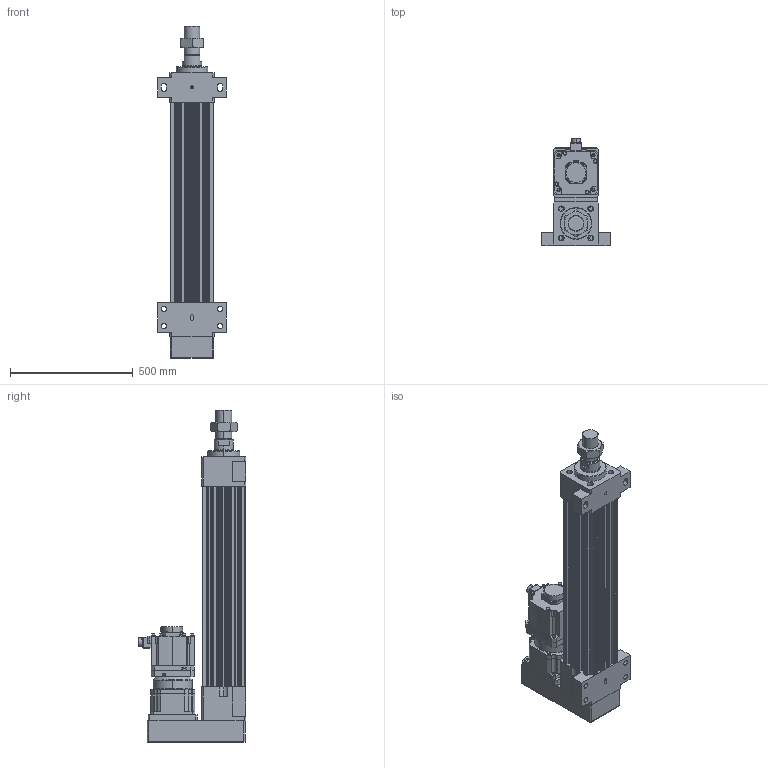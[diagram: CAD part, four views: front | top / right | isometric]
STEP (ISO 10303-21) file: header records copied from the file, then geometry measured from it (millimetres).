
FILE_DESCRIPTION (( 'STEP AP203' ), '1' );
FILE_NAME ('HES180HS-P500-W050G00-M-FFB.STEP', '2023-02-01T06:43:47', ( 'tms' ), ( '' ), 'SwSTEP 2.0', 'SolidWorks 2013', '' );
FILE_SCHEMA (( 'CONFIG_CONTROL_DESIGN' ));
Length unit declared in the file: millimetre
Products named in the file (9): P0403600401; HES180-P500-G180-FFB; P1301600001; HG-SR502; M64X2.0P; HES180HS-P500-W050G00-M-FFB; AB1801; AB180-003[HG-SR702B]; HES180 ROD M ST500
Assembly tree (8 placements, depth 3):
  HES180HS-P500-W050G00-M-FFB
    HES180-P500-G180-FFB
    HES180 ROD M ST500
    M64X2.0P
    AB180-003[HG-SR702B]
      AB1801
      P1301600001
      P0403600401
    HG-SR502
Bounding box: 280 x 438.85 x 1352 mm (x, y, z)
Volume: 30268376.6 mm3; surface area: 2641593 mm2
Topology: 4 solids, 19 shells, 1446 faces, 3761 edges, 2443 vertices
Faces by surface type: cylinder 668, plane 567, cone 144, bspline 63, torus 4
Entity records: 53114 total; most frequent: CARTESIAN_POINT 16078, DIRECTION 7777, ORIENTED_EDGE 7426, EDGE_CURVE 3737, AXIS2_PLACEMENT_3D 2922, VERTEX_POINT 2443, VECTOR 1933, LINE 1933
